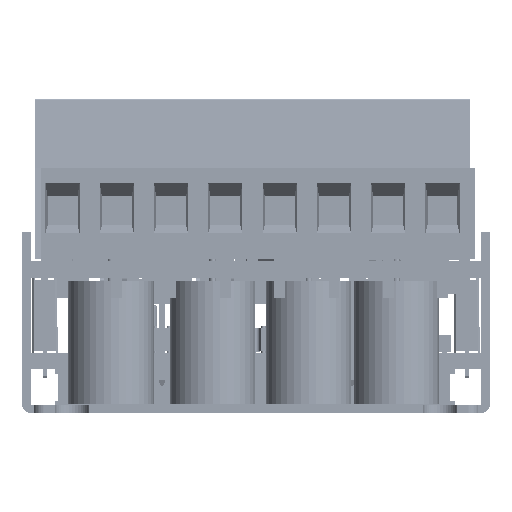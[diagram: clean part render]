
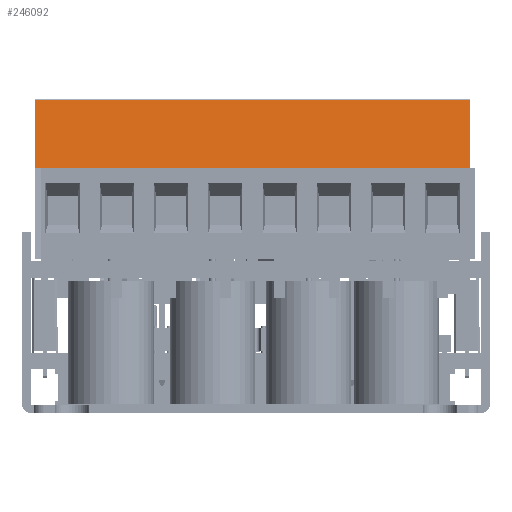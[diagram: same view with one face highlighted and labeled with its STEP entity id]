
A CAD part, left-side view. The second image highlights one B-rep face of the part: STEP entity #246092.
In plain terms, the highlighted planar face has unit normal (-0.991, 0, 0.137).
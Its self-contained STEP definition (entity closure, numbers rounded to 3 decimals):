
#143 = VERTEX_POINT ( 'NONE', #395952 ) ;
#16456 = ORIENTED_EDGE ( 'NONE', *, *, #692108, .F. ) ;
#28343 = LINE ( 'NONE', #765690, #684687 ) ;
#130023 = ORIENTED_EDGE ( 'NONE', *, *, #432203, .T. ) ;
#158121 = LINE ( 'NONE', #175829, #448577 ) ;
#167363 = DIRECTION ( 'NONE',  ( 0., 1., 0. ) ) ;
#175829 = CARTESIAN_POINT ( 'NONE',  ( -30.603, 50.176, 107.861 ) ) ;
#212922 = CARTESIAN_POINT ( 'NONE',  ( -30.603, 50.176, 107.861 ) ) ;
#213102 = LINE ( 'NONE', #711599, #610280 ) ;
#214920 = ORIENTED_EDGE ( 'NONE', *, *, #435400, .T. ) ;
#246092 = ADVANCED_FACE ( 'NONE', ( #564782 ), #607772, .T. ) ;
#263500 = VECTOR ( 'NONE', #167363, 1000. ) ;
#274483 = VERTEX_POINT ( 'NONE', #343631 ) ;
#289486 = VERTEX_POINT ( 'NONE', #656630 ) ;
#305481 = CARTESIAN_POINT ( 'NONE',  ( -30.603, 50.176, 107.861 ) ) ;
#343631 = CARTESIAN_POINT ( 'NONE',  ( -31.479, 50.176, 101.534 ) ) ;
#374253 = CARTESIAN_POINT ( 'NONE',  ( -30.603, 9.536, 107.861 ) ) ;
#395952 = CARTESIAN_POINT ( 'NONE',  ( -31.479, 49.686, 101.534 ) ) ;
#421692 = VERTEX_POINT ( 'NONE', #374253 ) ;
#432203 = EDGE_CURVE ( 'NONE', #143, #289486, #682861, .T. ) ;
#435400 = EDGE_CURVE ( 'NONE', #274483, #143, #213102, .T. ) ;
#448577 = VECTOR ( 'NONE', #656479, 1000. ) ;
#459805 = ORIENTED_EDGE ( 'NONE', *, *, #486292, .T. ) ;
#463691 = DIRECTION ( 'NONE',  ( -0.137, 0., -0.991 ) ) ;
#486292 = EDGE_CURVE ( 'NONE', #421692, #660529, #499691, .T. ) ;
#499691 = LINE ( 'NONE', #305481, #263500 ) ;
#564782 = FACE_OUTER_BOUND ( 'NONE', #603080, .T. ) ;
#602666 = ORIENTED_EDGE ( 'NONE', *, *, #840103, .T. ) ;
#603080 = EDGE_LOOP ( 'NONE', ( #459805, #602666, #214920, #130023, #16456 ) ) ;
#607772 = PLANE ( 'NONE',  #651835 ) ;
#610280 = VECTOR ( 'NONE', #783492, 1000. ) ;
#651835 = AXIS2_PLACEMENT_3D ( 'NONE', #809220, #749047, #463691 ) ;
#656479 = DIRECTION ( 'NONE',  ( -0.137, 0., -0.991 ) ) ;
#656630 = CARTESIAN_POINT ( 'NONE',  ( -31.479, 9.536, 101.534 ) ) ;
#660529 = VERTEX_POINT ( 'NONE', #212922 ) ;
#660801 = DIRECTION ( 'NONE',  ( 0., -1., 0. ) ) ;
#682861 = LINE ( 'NONE', #865080, #887046 ) ;
#684687 = VECTOR ( 'NONE', #831740, 1000. ) ;
#692108 = EDGE_CURVE ( 'NONE', #421692, #289486, #28343, .T. ) ;
#711599 = CARTESIAN_POINT ( 'NONE',  ( -31.479, 50.176, 101.534 ) ) ;
#749047 = DIRECTION ( 'NONE',  ( -0.991, 0., 0.137 ) ) ;
#765690 = CARTESIAN_POINT ( 'NONE',  ( -30.603, 9.536, 107.861 ) ) ;
#783492 = DIRECTION ( 'NONE',  ( 0., -1., 0. ) ) ;
#809220 = CARTESIAN_POINT ( 'NONE',  ( -30.579, 50.176, 108.034 ) ) ;
#831740 = DIRECTION ( 'NONE',  ( -0.137, 0., -0.991 ) ) ;
#840103 = EDGE_CURVE ( 'NONE', #660529, #274483, #158121, .T. ) ;
#865080 = CARTESIAN_POINT ( 'NONE',  ( -31.479, 50.176, 101.534 ) ) ;
#887046 = VECTOR ( 'NONE', #660801, 1000. ) ;
